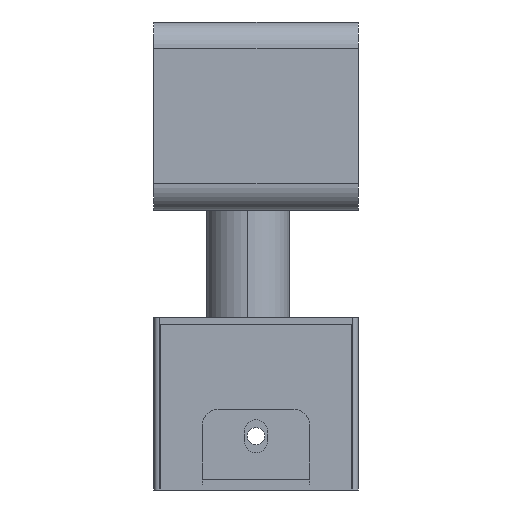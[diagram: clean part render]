
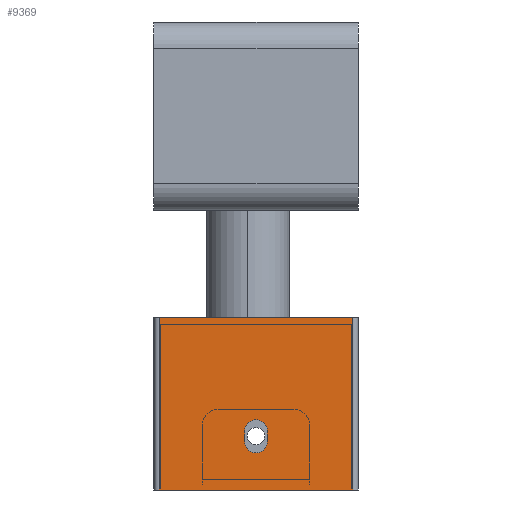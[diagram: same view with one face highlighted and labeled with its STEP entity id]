
A CAD part, left-side view. The second image highlights one B-rep face of the part: STEP entity #9369.
In plain terms, the highlighted planar face has unit normal (-1, 0, 0).
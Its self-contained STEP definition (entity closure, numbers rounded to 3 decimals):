
#8849=DIRECTION('',(0.,1.,0.));
#8850=VECTOR('',#8849,32.);
#8851=CARTESIAN_POINT('',(-100.,0.,18.));
#8852=LINE('',#8851,#8850);
#8857=DIRECTION('',(0.,0.,-1.));
#8858=VECTOR('',#8857,36.);
#8859=CARTESIAN_POINT('',(-100.,0.,18.));
#8860=LINE('',#8859,#8858);
#8861=CARTESIAN_POINT('',(-100.,23.,0.));
#8862=DIRECTION('',(-1.,0.,0.));
#8863=DIRECTION('',(0.,0.,1.));
#8864=AXIS2_PLACEMENT_3D('',#8861,#8862,#8863);
#8866=CARTESIAN_POINT('',(-100.,23.,0.));
#8867=DIRECTION('',(-1.,0.,0.));
#8868=DIRECTION('',(0.,1.,0.));
#8869=AXIS2_PLACEMENT_3D('',#8866,#8867,#8868);
#8871=CARTESIAN_POINT('',(-100.,21.,0.));
#8872=DIRECTION('',(-1.,0.,0.));
#8873=DIRECTION('',(0.,0.,-1.));
#8874=AXIS2_PLACEMENT_3D('',#8871,#8872,#8873);
#8876=CARTESIAN_POINT('',(-100.,21.,0.));
#8877=DIRECTION('',(-1.,0.,0.));
#8878=DIRECTION('',(0.,-1.,0.));
#8879=AXIS2_PLACEMENT_3D('',#8876,#8877,#8878);
#8885=DIRECTION('',(0.,-1.,0.));
#8886=VECTOR('',#8885,32.);
#8887=CARTESIAN_POINT('',(-100.,32.,-18.));
#8888=LINE('',#8887,#8886);
#8916=DIRECTION('',(0.,0.,-1.));
#8917=VECTOR('',#8916,36.);
#8918=CARTESIAN_POINT('',(-100.,32.,18.));
#8919=LINE('',#8918,#8917);
#9093=DIRECTION('',(0.,1.,0.));
#9094=VECTOR('',#9093,2.);
#9095=CARTESIAN_POINT('',(-100.,21.,-2.1));
#9096=LINE('',#9095,#9094);
#9105=DIRECTION('',(0.,-1.,0.));
#9106=VECTOR('',#9105,2.);
#9107=CARTESIAN_POINT('',(-100.,23.,2.1));
#9108=LINE('',#9107,#9106);
#9115=CARTESIAN_POINT('',(-100.,0.,-18.));
#9116=VERTEX_POINT('',#9115);
#9117=CARTESIAN_POINT('',(-100.,0.,18.));
#9118=VERTEX_POINT('',#9117);
#9155=CARTESIAN_POINT('',(-100.,32.,18.));
#9156=VERTEX_POINT('',#9155);
#9157=CARTESIAN_POINT('',(-100.,32.,-18.));
#9158=VERTEX_POINT('',#9157);
#9159=CARTESIAN_POINT('',(-100.,23.,2.1));
#9160=CARTESIAN_POINT('',(-100.,25.1,0.));
#9161=VERTEX_POINT('',#9159);
#9162=VERTEX_POINT('',#9160);
#9163=CARTESIAN_POINT('',(-100.,23.,-2.1));
#9164=VERTEX_POINT('',#9163);
#9165=CARTESIAN_POINT('',(-100.,21.,-2.1));
#9166=VERTEX_POINT('',#9165);
#9167=CARTESIAN_POINT('',(-100.,18.9,0.));
#9168=VERTEX_POINT('',#9167);
#9169=CARTESIAN_POINT('',(-100.,21.,2.1));
#9170=VERTEX_POINT('',#9169);
#9342=CARTESIAN_POINT('',(-100.,0.,-19.));
#9343=DIRECTION('',(-1.,0.,0.));
#9344=DIRECTION('',(0.,0.,1.));
#9345=AXIS2_PLACEMENT_3D('',#9342,#9343,#9344);
#9346=PLANE('',#9345);
#9348=ORIENTED_EDGE('',*,*,#9347,.F.);
#9350=ORIENTED_EDGE('',*,*,#9349,.F.);
#9351=ORIENTED_EDGE('',*,*,#9334,.F.);
#9352=ORIENTED_EDGE('',*,*,#9232,.T.);
#9353=EDGE_LOOP('',(#9348,#9350,#9351,#9352));
#9354=FACE_OUTER_BOUND('',#9353,.F.);
#9356=ORIENTED_EDGE('',*,*,#9355,.T.);
#9358=ORIENTED_EDGE('',*,*,#9357,.T.);
#9360=ORIENTED_EDGE('',*,*,#9359,.F.);
#9362=ORIENTED_EDGE('',*,*,#9361,.T.);
#9364=ORIENTED_EDGE('',*,*,#9363,.T.);
#9366=ORIENTED_EDGE('',*,*,#9365,.F.);
#9367=EDGE_LOOP('',(#9356,#9358,#9360,#9362,#9364,#9366));
#9368=FACE_BOUND('',#9367,.F.);
#8865=CIRCLE('',#8864,2.1);
#8870=CIRCLE('',#8869,2.1);
#8875=CIRCLE('',#8874,2.1);
#8880=CIRCLE('',#8879,2.1);
#9232=EDGE_CURVE('',#9118,#9116,#8860,.T.);
#9334=EDGE_CURVE('',#9118,#9156,#8852,.T.);
#9347=EDGE_CURVE('',#9158,#9116,#8888,.T.);
#9349=EDGE_CURVE('',#9156,#9158,#8919,.T.);
#9355=EDGE_CURVE('',#9161,#9162,#8865,.T.);
#9357=EDGE_CURVE('',#9162,#9164,#8870,.T.);
#9359=EDGE_CURVE('',#9166,#9164,#9096,.T.);
#9361=EDGE_CURVE('',#9166,#9168,#8875,.T.);
#9363=EDGE_CURVE('',#9168,#9170,#8880,.T.);
#9365=EDGE_CURVE('',#9161,#9170,#9108,.T.);
#9369=ADVANCED_FACE('',(#9354,#9368),#9346,.T.);
